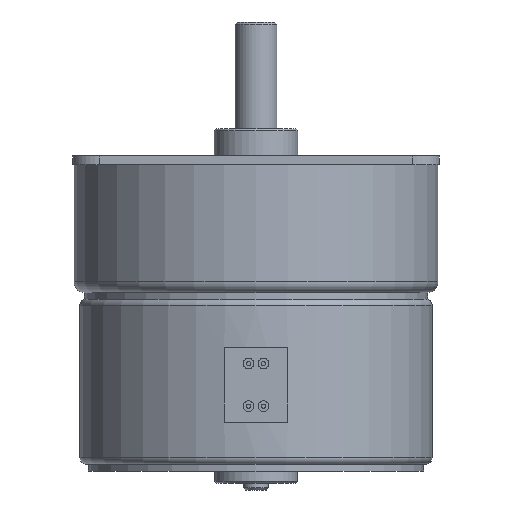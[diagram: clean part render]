
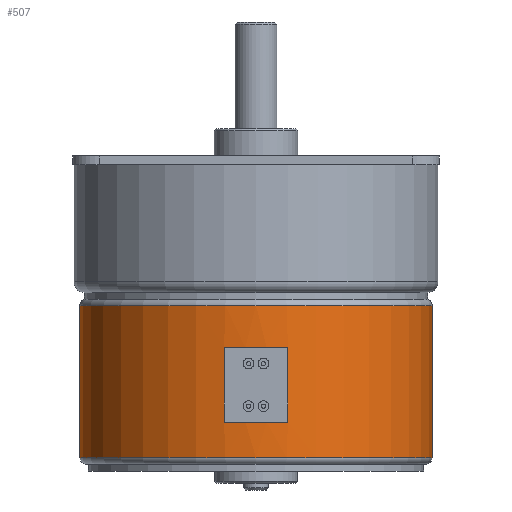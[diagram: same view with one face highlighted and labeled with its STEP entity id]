
A CAD part, front view. The second image highlights one B-rep face of the part: STEP entity #507.
In plain terms, the highlighted cylindrical face has radius 20.993 mm (diameter 41.986 mm), a partial arc.
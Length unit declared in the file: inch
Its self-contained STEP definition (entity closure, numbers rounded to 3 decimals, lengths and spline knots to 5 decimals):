
#33 = VERTEX_POINT ( 'NONE', #2867 ) ;
#425 = ORIENTED_EDGE ( 'NONE', *, *, #518, .T. ) ;
#427 = EDGE_LOOP ( 'NONE', ( #505, #532, #523, #534 ) ) ;
#453 = VERTEX_POINT ( 'NONE', #4282 ) ;
#485 = VERTEX_POINT ( 'NONE', #4416 ) ;
#505 = ORIENTED_EDGE ( 'NONE', *, *, #526, .T. ) ;
#507 = ADVANCED_FACE ( 'NONE', ( #4496, #4485 ), #4491, .T. ) ;
#510 = EDGE_CURVE ( 'NONE', #33, #1111, #4522, .T. ) ;
#512 = ORIENTED_EDGE ( 'NONE', *, *, #2646, .F. ) ;
#513 = ORIENTED_EDGE ( 'NONE', *, *, #2693, .T. ) ;
#514 = ORIENTED_EDGE ( 'NONE', *, *, #510, .T. ) ;
#518 = EDGE_CURVE ( 'NONE', #2699, #2698, #4574, .T. ) ;
#522 = VERTEX_POINT ( 'NONE', #4542 ) ;
#523 = ORIENTED_EDGE ( 'NONE', *, *, #547, .T. ) ;
#524 = EDGE_LOOP ( 'NONE', ( #512, #514, #513, #425 ) ) ;
#526 = EDGE_CURVE ( 'NONE', #453, #485, #4573, .T. ) ;
#528 = EDGE_CURVE ( 'NONE', #485, #531, #4568, .T. ) ;
#531 = VERTEX_POINT ( 'NONE', #4633 ) ;
#532 = ORIENTED_EDGE ( 'NONE', *, *, #528, .T. ) ;
#533 = EDGE_CURVE ( 'NONE', #522, #453, #4631, .T. ) ;
#534 = ORIENTED_EDGE ( 'NONE', *, *, #533, .T. ) ;
#547 = EDGE_CURVE ( 'NONE', #531, #522, #4662, .T. ) ;
#1111 = VERTEX_POINT ( 'NONE', #6483 ) ;
#1366 = CARTESIAN_POINT ( 'NONE',  ( 0.8265, 0., -0.70294 ) ) ;
#1819 = DIRECTION ( 'NONE',  ( 0., 0., 1. ) ) ;
#1820 = VECTOR ( 'NONE', #1819, 39.37008 ) ;
#1821 = CARTESIAN_POINT ( 'NONE',  ( 0.8265, 0., -1.44825 ) ) ;
#1822 = LINE ( 'NONE', #1821, #1820 ) ;
#1860 = DIRECTION ( 'NONE',  ( 0., 0., 1. ) ) ;
#1861 = VECTOR ( 'NONE', #1860, 39.37008 ) ;
#1874 = CARTESIAN_POINT ( 'NONE',  ( -0.8265, 0., -1.44825 ) ) ;
#1875 = LINE ( 'NONE', #1874, #1861 ) ;
#2033 = CARTESIAN_POINT ( 'NONE',  ( -0.8265, 0., -0.70294 ) ) ;
#2646 = EDGE_CURVE ( 'NONE', #33, #2698, #1875, .T. ) ;
#2693 = EDGE_CURVE ( 'NONE', #1111, #2699, #1822, .T. ) ;
#2698 = VERTEX_POINT ( 'NONE', #2033 ) ;
#2699 = VERTEX_POINT ( 'NONE', #1366 ) ;
#2867 = CARTESIAN_POINT ( 'NONE',  ( -0.8265, 0., -1.417 ) ) ;
#4282 = CARTESIAN_POINT ( 'NONE',  ( -0.15, -0.81277, -0.9 ) ) ;
#4416 = CARTESIAN_POINT ( 'NONE',  ( 0.15, -0.81277, -0.9 ) ) ;
#4485 = FACE_BOUND ( 'NONE', #427, .T. ) ;
#4491 = CYLINDRICAL_SURFACE ( 'NONE', #4498, 0.8265 ) ;
#4496 = FACE_OUTER_BOUND ( 'NONE', #524, .T. ) ;
#4498 = AXIS2_PLACEMENT_3D ( 'NONE', #4515, #4553, #4552 ) ;
#4515 = CARTESIAN_POINT ( 'NONE',  ( 0., 0., -1.44825 ) ) ;
#4522 = CIRCLE ( 'NONE', #4549, 0.8265 ) ;
#4541 = AXIS2_PLACEMENT_3D ( 'NONE', #4572, #4554, #4565 ) ;
#4542 = CARTESIAN_POINT ( 'NONE',  ( -0.15, -0.81277, -1.25 ) ) ;
#4544 = DIRECTION ( 'NONE',  ( -1., 0., 0. ) ) ;
#4545 = DIRECTION ( 'NONE',  ( 0., 0., 1. ) ) ;
#4546 = CARTESIAN_POINT ( 'NONE',  ( 0., 0., -1.417 ) ) ;
#4549 = AXIS2_PLACEMENT_3D ( 'NONE', #4546, #4545, #4544 ) ;
#4552 = DIRECTION ( 'NONE',  ( 1., 0., 0. ) ) ;
#4553 = DIRECTION ( 'NONE',  ( 0., 0., 1. ) ) ;
#4554 = DIRECTION ( 'NONE',  ( 0., 0., -1. ) ) ;
#4560 = AXIS2_PLACEMENT_3D ( 'NONE', #4567, #4608, #4607 ) ;
#4562 = DIRECTION ( 'NONE',  ( 0., 0., -1. ) ) ;
#4563 = CARTESIAN_POINT ( 'NONE',  ( 0.15, -0.81277, -1.44825 ) ) ;
#4565 = DIRECTION ( 'NONE',  ( 1., 0., 0. ) ) ;
#4567 = CARTESIAN_POINT ( 'NONE',  ( 0., 0., -0.9 ) ) ;
#4568 = LINE ( 'NONE', #4563, #4603 ) ;
#4572 = CARTESIAN_POINT ( 'NONE',  ( 0., 0., -0.70294 ) ) ;
#4573 = CIRCLE ( 'NONE', #4560, 0.8265 ) ;
#4574 = CIRCLE ( 'NONE', #4541, 0.8265 ) ;
#4603 = VECTOR ( 'NONE', #4562, 39.37008 ) ;
#4607 = DIRECTION ( 'NONE',  ( 1., 0., 0. ) ) ;
#4608 = DIRECTION ( 'NONE',  ( 0., 0., 1. ) ) ;
#4628 = DIRECTION ( 'NONE',  ( 0., 0., 1. ) ) ;
#4629 = VECTOR ( 'NONE', #4628, 39.37008 ) ;
#4630 = CARTESIAN_POINT ( 'NONE',  ( -0.15, -0.81277, -1.44825 ) ) ;
#4631 = LINE ( 'NONE', #4630, #4629 ) ;
#4633 = CARTESIAN_POINT ( 'NONE',  ( 0.15, -0.81277, -1.25 ) ) ;
#4654 = DIRECTION ( 'NONE',  ( -1., 0., 0. ) ) ;
#4655 = DIRECTION ( 'NONE',  ( 0., 0., -1. ) ) ;
#4656 = CARTESIAN_POINT ( 'NONE',  ( 0., 0., -1.25 ) ) ;
#4657 = AXIS2_PLACEMENT_3D ( 'NONE', #4656, #4655, #4654 ) ;
#4662 = CIRCLE ( 'NONE', #4657, 0.8265 ) ;
#6483 = CARTESIAN_POINT ( 'NONE',  ( 0.8265, 0., -1.417 ) ) ;
